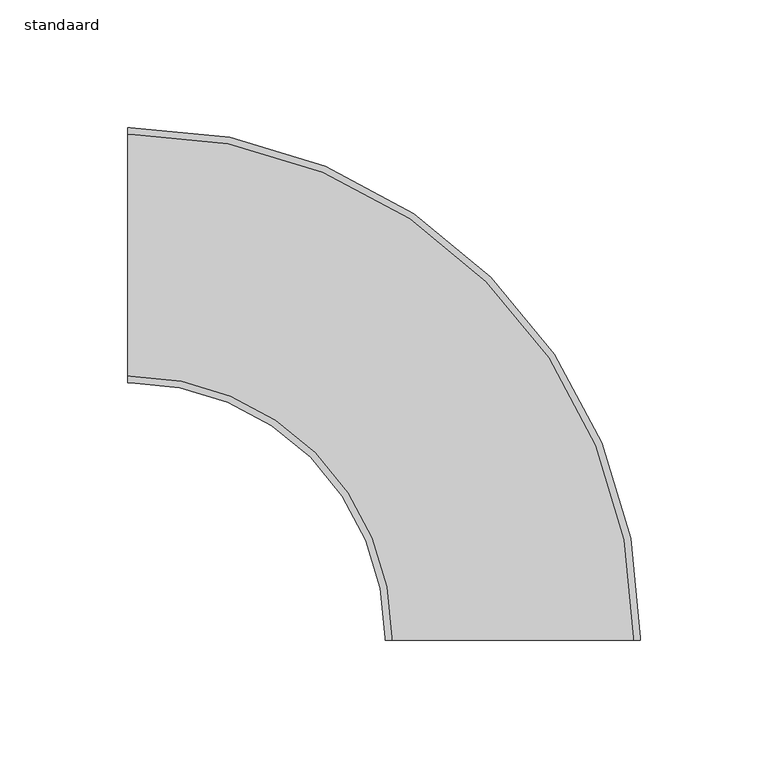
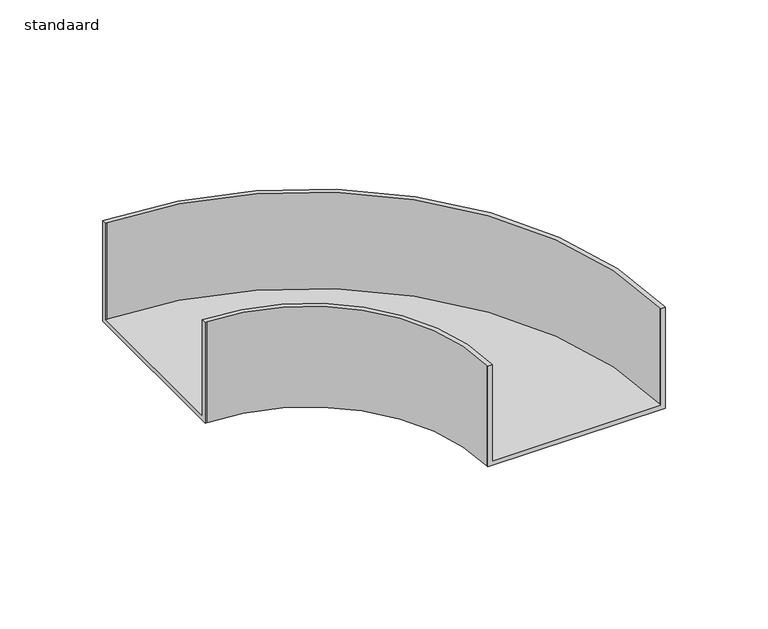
"""IFC4 building model written with IfcOpenShell, lengths in millimetres: cable carrier fitting geometry, AI_Raccord cdc_Coude horizontal rayon court : standaard."""

import ifcopenshell
import ifcopenshell.guid

model = None  # the IFC model being written
_history = None  # IfcOwnerHistory: only IFC2X3 demands one
_inside = {}  # id of a spatial element -> (the spatial element, [elements in it])
_under = {}  # id of a project, library or spatial element -> (it, [spatial elements below it])
_declared = {}  # id of a project -> (the project, [libraries it declares])
_typed = {}  # id of a type object -> (the type object, [elements of that type])
_made_of = {}  # id of a material, layer set ... -> (it, [elements and type objects made of it])


def new_model(schema):
    """Start an empty IFC model of exactly this schema.

    Asked for "IFC4X3", IfcOpenShell would pick the latest addendum, in which some entities
    have other attributes; the version numbers below select the first issue.
    IFC2X3 requires an IfcOwnerHistory on every rooted entity: one is made here for all.
    """
    global model, _history
    if schema == "IFC4X3":
        model = ifcopenshell.file(schema_version=(4, 3, 0, 0))
    else:
        model = ifcopenshell.file(schema=schema)
    _inside.clear()
    _under.clear()
    _declared.clear()
    _typed.clear()
    _made_of.clear()
    _history = None
    if model.schema == "IFC2X3":
        org = make("IfcOrganization", Name="unknown")
        user = make(
            "IfcPersonAndOrganization",
            ThePerson=make("IfcPerson", FamilyName="unknown"),
            TheOrganization=org,
        )
        app = make(
            "IfcApplication",
            ApplicationDeveloper=org,
            Version="unknown",
            ApplicationFullName="unknown",
            ApplicationIdentifier="unknown",
        )
        _history = make(
            "IfcOwnerHistory",
            OwningUser=user,
            OwningApplication=app,
            ChangeAction="ADDED",
            CreationDate=0,
        )
    return model


def make(cls, **values):
    """One entity of the class cls with the attributes given. An attribute that is None is left unset."""
    return model.create_entity(
        cls, **{name: value for name, value in values.items() if value is not None}
    )


def rooted(cls, **values):
    """An entity with a GlobalId (a new one), such as an element, a storey or a relation."""
    return make(cls, GlobalId=ifcopenshell.guid.new(), OwnerHistory=_history, **values)


def si_unit(unit_type, name, prefix=None):
    """IfcSIUnit, for example si_unit("LENGTHUNIT", "METRE", prefix="MILLI")."""
    return make("IfcSIUnit", UnitType=unit_type, Prefix=prefix, Name=name)


def assignment(units):
    """IfcUnitAssignment: the units of a project."""
    return None if units is None else make("IfcUnitAssignment", Units=units)


def point(xyz):
    """IfcCartesianPoint."""
    return None if xyz is None else make("IfcCartesianPoint", Coordinates=xyz)


def direction(xyz):
    """IfcDirection."""
    return None if xyz is None else make("IfcDirection", DirectionRatios=xyz)


def frame(location, z_axis=None, x_axis=None):
    """IfcAxis2Placement3D, a coordinate frame: its origin and axes. An axis left out is left unset."""
    return make(
        "IfcAxis2Placement3D",
        Location=point(location),
        Axis=direction(z_axis),
        RefDirection=direction(x_axis),
    )


def origin():
    """The frame at (0, 0, 0) with its axes left unset."""
    return frame((0.0, 0.0, 0.0))


def place(relative_to, where):
    """IfcLocalPlacement: puts the frame where relative to a parent placement (None: the world)."""
    return make(
        "IfcLocalPlacement", PlacementRelTo=relative_to, RelativePlacement=where
    )


def context(
    kind, dimensions, precision=None, world=None, true_north=None, identifier=None
):
    """IfcGeometricRepresentationContext, for example the 3D "Model" context."""
    return make(
        "IfcGeometricRepresentationContext",
        ContextIdentifier=identifier,
        ContextType=kind,
        CoordinateSpaceDimension=dimensions,
        Precision=precision,
        WorldCoordinateSystem=world,
        TrueNorth=true_north,
    )


def project(units=None, contexts=None):
    """IfcProject with its units and contexts."""
    return rooted(
        "IfcProject",
        Name="project",
        RepresentationContexts=contexts,
        UnitsInContext=assignment(units),
    )


def spatial(cls, under=None, at=None, **own):
    """A site, building, storey or space (cls), placed at a placement, below another one or the project."""
    s = rooted(cls, ObjectPlacement=at, **own)
    if under is not None:
        _under.setdefault(under.id(), (under, []))[1].append(s)
    return s


def polyline(points):
    """IfcPolyline through the points."""
    return make("IfcPolyline", Points=[point(p) for p in points])


def circle_curve(where, radius):
    """IfcCircle in the frame where."""
    return make("IfcCircle", Position=where, Radius=radius)


def shape(context_of_items, identifier, shape_type, items):
    """IfcShapeRepresentation: the items that make up one representation, for example the "Body"."""
    return make(
        "IfcShapeRepresentation",
        ContextOfItems=context_of_items,
        RepresentationIdentifier=identifier,
        RepresentationType=shape_type,
        Items=items,
    )


def source(mapping_origin, context_of_items, identifier, shape_type, items):
    """IfcRepresentationMap: a shape defined once, which mapped items show again and again."""
    return make(
        "IfcRepresentationMap",
        MappingOrigin=mapping_origin,
        MappedRepresentation=shape(context_of_items, identifier, shape_type, items),
    )


def transform(
    local_origin,
    x_axis=None,
    y_axis=None,
    z_axis=None,
    scale=None,
    scale2=None,
    scale3=None,
    uniform=True,
):
    """IfcCartesianTransformationOperator3D, or its non-uniform kind. x_axis, y_axis, z_axis: its Axis1, 2, 3."""
    if uniform:
        return make(
            "IfcCartesianTransformationOperator3D",
            Axis1=direction(x_axis),
            Axis2=direction(y_axis),
            LocalOrigin=point(local_origin),
            Scale=scale,
            Axis3=direction(z_axis),
        )
    return make(
        "IfcCartesianTransformationOperator3DnonUniform",
        Axis1=direction(x_axis),
        Axis2=direction(y_axis),
        LocalOrigin=point(local_origin),
        Scale=scale,
        Axis3=direction(z_axis),
        Scale2=scale2,
        Scale3=scale3,
    )


def mapped(mapping_source, mapping_target):
    """IfcMappedItem: shows the shape of a source again, moved by a transform."""
    return make(
        "IfcMappedItem", MappingSource=mapping_source, MappingTarget=mapping_target
    )


def made_of(thing, what):
    """Note that an element or type object is made of a material, layer set ...; save() writes the relation."""
    if what is not None:
        _made_of.setdefault(what.id(), (what, []))[1].append(thing)
    return thing


def element(
    cls,
    number,
    at=None,
    inside=None,
    cuts=None,
    type_object=None,
    material=None,
    context=None,
    identifier="Body",
    shape_type=None,
    held_by="IfcProductDefinitionShape",
    body=None,
    shapes=None,
    **own,
):
    """One element of the class cls, such as IfcWall. Its Tag is "e" and its number.

    at: its placement. inside: the storey or other place that contains it. cuts: it is an
    opening in that element (IfcRelVoidsElement). A single representation is given by context,
    identifier, shape_type and body (its items); several are given by shapes. held_by: the class
    of the entity that holds the representations. save() writes the other relations.
    """
    e = rooted(cls, Tag="e%d" % number, ObjectPlacement=at, **own)
    if body is not None:
        shapes = [shape(context, identifier, shape_type, body)]
    if shapes is not None:
        e.Representation = make(held_by, Representations=shapes)
    if inside is not None:
        _inside.setdefault(inside.id(), (inside, []))[1].append(e)
    if cuts is not None:
        rooted(
            "IfcRelVoidsElement", RelatingBuildingElement=cuts, RelatedOpeningElement=e
        )
    if type_object is not None:
        _typed.setdefault(type_object.id(), (type_object, []))[1].append(e)
    return made_of(e, material)


def aggregate(whole, parts):
    """IfcRelAggregates: a whole, such as a stair, and the parts it consists of."""
    return rooted("IfcRelAggregates", RelatingObject=whole, RelatedObjects=parts)


def save(model, path):
    """Write the relations noted so far, then the file.

    IfcRelAggregates (storeys below a building ...), IfcRelContainedInSpatialStructure (elements
    in a storey), IfcRelDefinesByType, IfcRelAssociatesMaterial and IfcRelDeclares: one each for
    every whole, place, type object, material and project.
    """
    for whole, parts in _under.values():
        aggregate(whole, parts)
    for where, things in _inside.values():
        rooted(
            "IfcRelContainedInSpatialStructure",
            RelatedElements=things,
            RelatingStructure=where,
        )
    for kind, things in _typed.values():
        rooted("IfcRelDefinesByType", RelatedObjects=things, RelatingType=kind)
    for what, things in _made_of.values():
        rooted("IfcRelAssociatesMaterial", RelatedObjects=things, RelatingMaterial=what)
    for by, libraries in _declared.values():
        rooted("IfcRelDeclares", RelatingContext=by, RelatedDefinitions=libraries)
    model.write(path)


def plane_surface(at):
    """IfcPlane: the flat surface through the origin of the frame at, square to its z axis."""
    return make("IfcPlane", Position=at)


def cylinder_surface(at, radius):
    """IfcCylindricalSurface: all points at the distance radius from the z axis of the frame at."""
    return make("IfcCylindricalSurface", Position=at, Radius=radius)


def revolved_surface(curve, axis_point, axis_direction):
    """IfcSurfaceOfRevolution: the curve turned about the line through axis_point along axis_direction."""
    return make(
        "IfcSurfaceOfRevolution",
        SweptCurve=make("IfcArbitraryOpenProfileDef", ProfileType="CURVE", Curve=curve),
        AxisPosition=make("IfcAxis1Placement", Location=point(axis_point), Axis=direction(axis_direction)),
    )


def advanced_brep(points, edges, surfaces, faces):
    """IfcAdvancedBrep: a solid bounded by faces that lie on surfaces and meet in shared edges.

    An edge is (start, end): straight between two places in points (the first is 0);
    or (start, end, curve); or (start, end, curve, False) where it runs against its curve.
    A face is (place in surfaces, loops), or (place, loops, False) where it looks against
    its surface's normal. A loop lists edges by number (the first is 1), with a minus sign
    where the edge is run from its end to its start. The first loop is the outer one.
    """
    corners = [point(p) for p in points]
    vertices = [make("IfcVertexPoint", VertexGeometry=c) for c in corners]
    made = []
    for start, end, *more in edges:
        made.append(
            make(
                "IfcEdgeCurve",
                EdgeStart=vertices[start],
                EdgeEnd=vertices[end],
                EdgeGeometry=more[0] if more else make("IfcPolyline", Points=[corners[start], corners[end]]),
                SameSense=more[1] if len(more) > 1 else True,
            )
        )
    hull = []
    for where, loops, *sense in faces:
        bounds = []
        for j, loop in enumerate(loops):
            ring = [make("IfcOrientedEdge", EdgeElement=made[abs(k) - 1], Orientation=k > 0) for k in loop]
            bounds.append(
                make(
                    "IfcFaceOuterBound" if j == 0 else "IfcFaceBound",
                    Bound=make("IfcEdgeLoop", EdgeList=ring),
                    Orientation=True,
                )
            )
        hull.append(make("IfcAdvancedFace", Bounds=bounds, FaceSurface=surfaces[where], SameSense=sense[0] if sense else True))
    return make("IfcAdvancedBrep", Outer=make("IfcClosedShell", CfsFaces=hull))


def standaard_b9184b4d(model_context):
    return source(origin(), model_context, "Body", "AdvancedBrep", [
        advanced_brep(
        [(-151.0, 50.0, -30.0), (-151.0, -50.0, -30.0), (-151.0, -50.0, 30.0), (-151.0, -47.46, 30.0), (-151.0, -47.46, -27.46), (-151.0, 47.46, -27.46), (-151.0, 47.46, 30.0), (-151.0, 50.0, 30.0), (50.0, -151.0, -30.0), (50.0, -151.0, 30.0), (47.46, -151.0, 30.0), (47.46, -151.0, -27.46), (-47.46, -151.0, -27.46), (-47.46, -151.0, 30.0), (-50.0, -151.0, 30.0), (-50.0, -151.0, -30.0), (-150.0, 50.0, 30.0), (-150.0, 50.0, -30.0), (-150.0, 47.46, 30.0), (47.46, -150.0, 30.0), (50.0, -150.0, 30.0), (-150.0, 47.46, -27.46), (-150.0, -47.46, -27.46), (-47.46, -150.0, -27.46), (47.46, -150.0, -27.46), (-150.0, -47.46, 30.0), (-150.0, -50.0, 30.0), (-50.0, -150.0, 30.0), (-47.46, -150.0, 30.0), (-150.0, -50.0, -30.0), (50.0, -150.0, -30.0), (-50.0, -150.0, -30.0)],
        [
            (0, 1),
            (1, 2),
            (2, 3),
            (3, 4),
            (4, 5),
            (5, 6),
            (6, 7),
            (7, 0),
            (8, 9),
            (9, 10),
            (10, 11),
            (11, 12),
            (12, 13),
            (13, 14),
            (14, 15),
            (15, 8),
            (7, 16),
            (16, 17),
            (17, 0),
            (6, 18),
            (18, 19, circle_curve(frame((-150.0, -150.0, 30.0), z_axis=(0.0, 0.0, -1.0), x_axis=(0.0, 1.0, 0.0)), 197.46)),
            (19, 10),
            (9, 20),
            (20, 16, circle_curve(frame((-150.0, -150.0, 30.0), z_axis=(0.0, 0.0, 1.0), x_axis=(0.0, 1.0, 0.0)), 200.0)),
            (5, 21),
            (21, 18),
            (4, 22),
            (22, 23, circle_curve(frame((-150.0, -150.0, -27.46), z_axis=(0.0, 0.0, -1.0), x_axis=(0.0, 1.0, 0.0)), 102.54)),
            (23, 12),
            (11, 24),
            (24, 21, circle_curve(frame((-150.0, -150.0, -27.46), z_axis=(0.0, 0.0, 1.0), x_axis=(0.0, 1.0, 0.0)), 197.46)),
            (3, 25),
            (25, 22),
            (2, 26),
            (26, 27, circle_curve(frame((-150.0, -150.0, 30.0), z_axis=(0.0, 0.0, -1.0), x_axis=(0.0, 1.0, 0.0)), 100.0)),
            (27, 14),
            (13, 28),
            (28, 25, circle_curve(frame((-150.0, -150.0, 30.0), z_axis=(0.0, 0.0, 1.0), x_axis=(0.0, 1.0, 0.0)), 102.54)),
            (1, 29),
            (29, 26),
            (17, 30, circle_curve(frame((-150.0, -150.0, -30.0), z_axis=(0.0, 0.0, -1.0), x_axis=(0.0, 1.0, 0.0)), 200.0)),
            (30, 8),
            (15, 31),
            (31, 29, circle_curve(frame((-150.0, -150.0, -30.0), z_axis=(0.0, 0.0, 1.0), x_axis=(0.0, 1.0, 0.0)), 100.0)),
            (20, 30),
            (24, 19),
            (28, 23),
            (31, 27),
        ],
        [
            plane_surface(frame((-151.0, 0.0, 0.0), z_axis=(-1.0, 4.910971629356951e-12, 0.0), x_axis=(0.0, 0.0, 1.0))),
            plane_surface(frame((0.0, -151.0, 0.0), z_axis=(0.0, -1.0, 0.0), x_axis=(0.0, 0.0, 1.0))),
            plane_surface(frame((-151.0, 50.0, -30.0), z_axis=(4.906741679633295e-12, 1.0, 0.0), x_axis=(1.0, -4.906741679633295e-12, 0.0))),
            plane_surface(frame((-151.0, 50.0, 30.0), z_axis=(0.0, 0.0, 1.0), x_axis=(1.0, -4.906741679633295e-12, 0.0))),
            plane_surface(frame((-151.0, 47.46, 30.0), z_axis=(-4.906741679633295e-12, -1.0, 0.0), x_axis=(1.0, -4.906741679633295e-12, 0.0))),
            plane_surface(frame((-151.0, 47.46, -27.46), z_axis=(0.0, 0.0, 1.0), x_axis=(1.0, -4.889821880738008e-12, 0.0))),
            plane_surface(frame((-151.0, -47.46, -27.46), z_axis=(4.898281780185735e-12, 1.0, 0.0), x_axis=(1.0, -4.898281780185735e-12, 0.0))),
            plane_surface(frame((-151.0, -47.46, 30.0), z_axis=(0.0, 0.0, 1.0), x_axis=(1.0, -4.898281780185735e-12, 0.0))),
            plane_surface(frame((-151.0, -50.0, 30.0), z_axis=(-4.906741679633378e-12, -1.0, 0.0), x_axis=(1.0, -4.906741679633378e-12, 0.0))),
            plane_surface(frame((-151.0, -50.0, -30.0), z_axis=(0.0, 0.0, -1.0), x_axis=(1.0, -4.906741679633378e-12, 0.0))),
            cylinder_surface(frame((-150.0, -150.0, 0.0), z_axis=(0.0, 0.0, 1.0), x_axis=(0.0, 1.0, 0.0)), 200.0),
            revolved_surface(polyline([(-150.0, 47.46000000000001, 30.0), (-150.0, 47.46000000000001, -27.46)]), (-150.0, -150.0, 0.0), (0.0, 0.0, 1.0)),
            cylinder_surface(frame((-150.0, -150.0, 0.0), z_axis=(0.0, 0.0, 1.0), x_axis=(0.0, 1.0, 0.0)), 102.54),
            revolved_surface(polyline([(-150.0, -50.0, 30.0), (-150.0, -50.0, -30.0)]), (-150.0, -150.0, 0.0), (0.0, 0.0, 1.0)),
            plane_surface(frame((50.0, -150.0, -30.0), z_axis=(1.0, 0.0, 0.0), x_axis=(0.0, -1.0, 0.0))),
            plane_surface(frame((47.46, -150.0, 30.0), z_axis=(-1.0, 0.0, 0.0), x_axis=(0.0, -1.0, 0.0))),
            plane_surface(frame((-47.46, -150.0, -27.46), z_axis=(1.0, 0.0, 0.0), x_axis=(0.0, -1.0, 0.0))),
            plane_surface(frame((-50.0, -150.0, 30.0), z_axis=(-1.0, 0.0, 0.0), x_axis=(0.0, -1.0, 0.0))),
        ],
        [
            (0, [[1, 2, 3, 4, 5, 6, 7, 8]]),
            (1, [[9, 10, 11, 12, 13, 14, 15, 16]]),
            (2, [[17, 18, 19, -8]]),
            (3, [[20, 21, 22, -10, 23, 24, -17, -7]]),
            (4, [[25, 26, -20, -6]]),
            (5, [[27, 28, 29, -12, 30, 31, -25, -5]]),
            (6, [[32, 33, -27, -4]]),
            (7, [[34, 35, 36, -14, 37, 38, -32, -3]]),
            (8, [[39, 40, -34, -2]]),
            (9, [[-19, 41, 42, -16, 43, 44, -39, -1]]),
            (10, [[45, -41, -18, -24]]),
            (11, [[46, -21, -26, -31]]),
            (12, [[47, -28, -33, -38]]),
            (13, [[48, -35, -40, -44]]),
            (14, [[-23, -9, -42, -45]]),
            (15, [[-30, -11, -22, -46]]),
            (16, [[-37, -13, -29, -47]]),
            (17, [[-43, -15, -36, -48]]),
        ],
    ),
    ])


if __name__ == "__main__":
    model = new_model("IFC4")
    model_context = context("Model", 3, world=origin())
    ifc_project = project(units=[si_unit("LENGTHUNIT", "METRE", prefix="MILLI")], contexts=[model_context])
    site = spatial("IfcSite", under=ifc_project)
    building = spatial("IfcBuilding", under=site)
    placement = place(None, origin())
    standaard_shape = standaard_b9184b4d(model_context)
    element("IfcCableCarrierFitting", 1, ObjectType="AI_Raccord cdc_Coude horizontal rayon court : standaard", at=placement, inside=building, context=model_context, shape_type="MappedRepresentation", body=[
        mapped(standaard_shape, transform((0.0, 0.0, 0.0), x_axis=(1.0, 0.0, 0.0), y_axis=(0.0, 1.0, 0.0), z_axis=(0.0, 0.0, 1.0))),
    ])
    save(model, "model.ifc")
